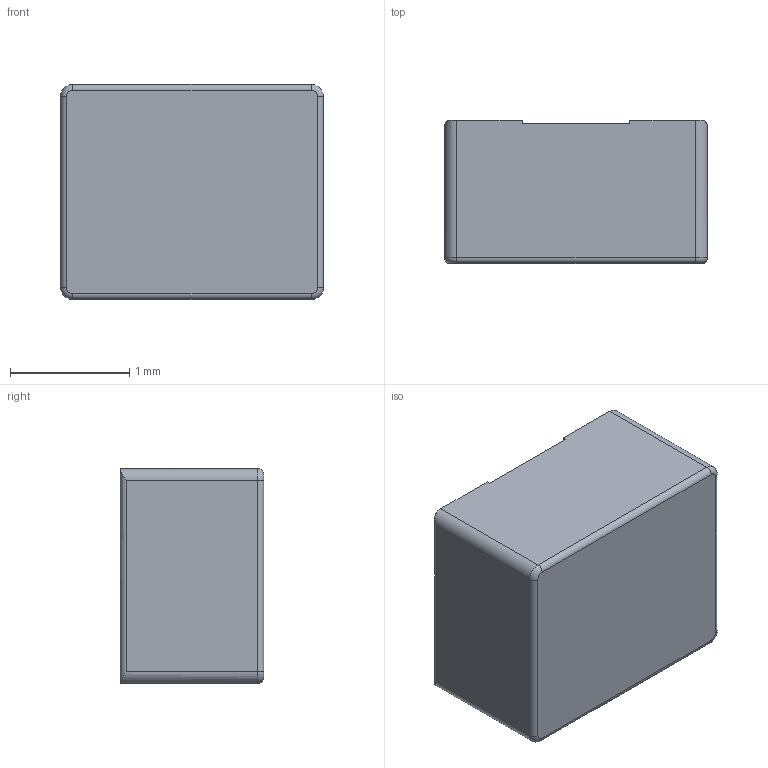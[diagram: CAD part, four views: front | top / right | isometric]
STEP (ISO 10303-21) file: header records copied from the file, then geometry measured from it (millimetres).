
FILE_DESCRIPTION (( 'STEP AP214' ), '1' );
FILE_NAME ('201612-6A.STEP', '2024-02-01T09:27:03', ( 'China' ), ( 'Microsoft' ), 'SwSTEP 2.0', 'SolidWorks 2022', '' );
FILE_SCHEMA (( 'AUTOMOTIVE_DESIGN' ));
Length unit declared in the file: millimetre
Products named in the file (1): 201612-6A
Bounding box: 2.2 x 1.2 x 1.8 mm (x, y, z)
Volume: 4.7 mm3; surface area: 17.1 mm2
Topology: 1 solids, 1 shells, 24 faces, 58 edges, 36 vertices
Faces by surface type: plane 10, cylinder 10, torus 4
Entity records: 916 total; most frequent: CARTESIAN_POINT 179, DIRECTION 124, ORIENTED_EDGE 116, EDGE_CURVE 58, AXIS2_PLACEMENT_3D 45, VERTEX_POINT 36, VECTOR 34, LINE 34
